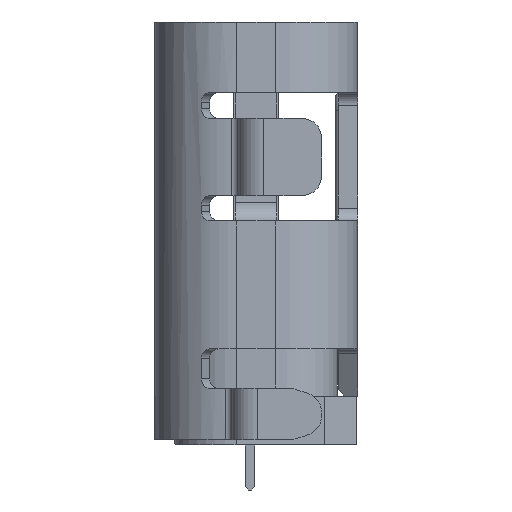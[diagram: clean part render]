
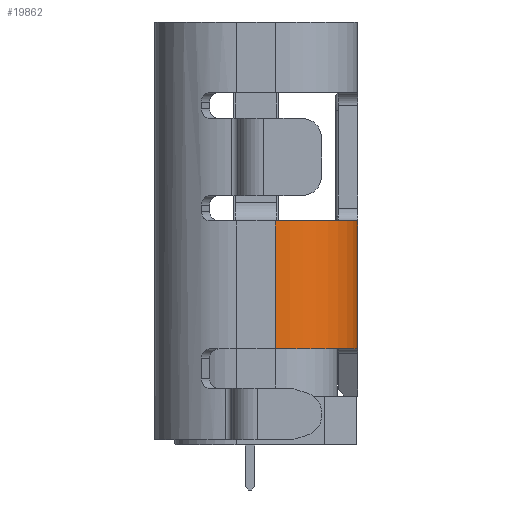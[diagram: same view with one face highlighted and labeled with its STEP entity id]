
A CAD part, left-side view. The second image highlights one B-rep face of the part: STEP entity #19862.
In plain terms, the highlighted cylindrical face has radius 1.28 mm (diameter 2.56 mm), a partial arc.
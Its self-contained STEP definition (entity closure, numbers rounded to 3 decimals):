
#5524=DIRECTION('',(0.,0.,1.));
#5525=VECTOR('',#5524,1.99);
#5526=CARTESIAN_POINT('',(-4.47,-0.3,-0.285));
#5527=LINE('',#5526,#5525);
#5706=CARTESIAN_POINT('',(-3.19,-0.3,1.705));
#5707=DIRECTION('',(0.,0.,-1.));
#5708=DIRECTION('',(0.,-1.,0.));
#5709=AXIS2_PLACEMENT_3D('',#5706,#5707,#5708);
#5720=DIRECTION('',(0.,0.,1.));
#5721=VECTOR('',#5720,1.99);
#5722=CARTESIAN_POINT('',(-3.19,-1.58,-0.285));
#5723=LINE('',#5722,#5721);
#5733=CARTESIAN_POINT('',(-3.19,-0.3,-0.285));
#5734=DIRECTION('',(0.,0.,1.));
#5735=DIRECTION('',(-1.,0.,0.));
#5736=AXIS2_PLACEMENT_3D('',#5733,#5734,#5735);
#9715=CARTESIAN_POINT('',(-3.19,-1.58,1.705));
#9716=VERTEX_POINT('',#9715);
#9719=CARTESIAN_POINT('',(-3.19,-1.58,-0.285));
#9720=VERTEX_POINT('',#9719);
#10339=CARTESIAN_POINT('',(-4.47,-0.3,-0.285));
#10341=VERTEX_POINT('',#10339);
#10343=CARTESIAN_POINT('',(-4.47,-0.3,1.705));
#10345=VERTEX_POINT('',#10343);
#19850=CARTESIAN_POINT('',(-3.19,-0.3,-1.7));
#19851=DIRECTION('',(0.,0.,1.));
#19852=DIRECTION('',(1.,0.,0.));
#19853=AXIS2_PLACEMENT_3D('',#19850,#19851,#19852);
#19854=CYLINDRICAL_SURFACE('',#19853,1.28);
#19856=ORIENTED_EDGE('',*,*,#19855,.F.);
#19857=ORIENTED_EDGE('',*,*,#19629,.T.);
#19858=ORIENTED_EDGE('',*,*,#19840,.F.);
#19859=ORIENTED_EDGE('',*,*,#11907,.F.);
#19860=EDGE_LOOP('',(#19856,#19857,#19858,#19859));
#19861=FACE_OUTER_BOUND('',#19860,.F.);
#5710=CIRCLE('',#5709,1.28);
#5737=CIRCLE('',#5736,1.28);
#11907=EDGE_CURVE('',#9720,#9716,#5723,.T.);
#19629=EDGE_CURVE('',#10341,#10345,#5527,.T.);
#19840=EDGE_CURVE('',#9716,#10345,#5710,.T.);
#19855=EDGE_CURVE('',#10341,#9720,#5737,.T.);
#19862=ADVANCED_FACE('',(#19861),#19854,.T.);
